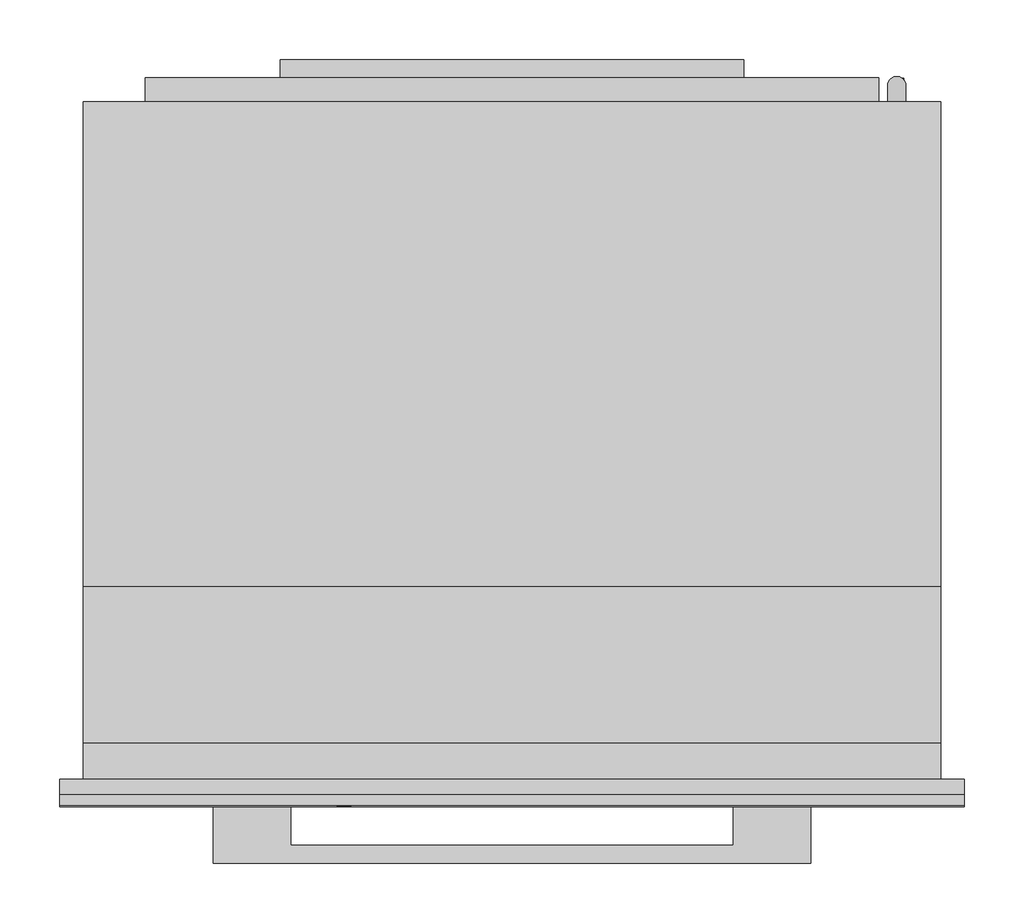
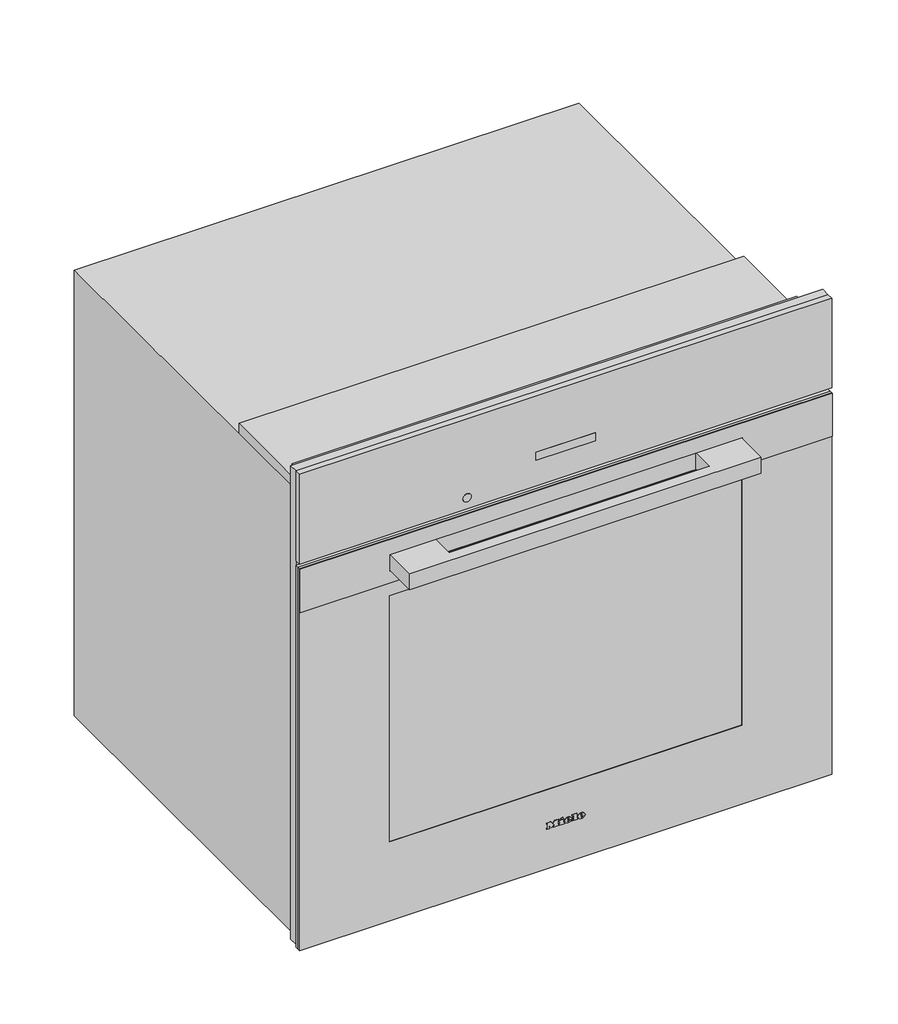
# Not in any storey: 1 proxy.
"""IFC4 building model written with IfcOpenShell, lengths in millimetres."""

from ifc_helpers import new_model, si_unit, origin, place, context, project, spatial, transform, mapped, element, save
from components import specialty_equipment_05982ed7

model = new_model("IFC4")

# Units and contexts
model_context = context("Model", 3, world=origin())
ifc_project = project(units=[si_unit("LENGTHUNIT", "METRE", prefix="MILLI")], contexts=[model_context])

# Site, building
site = spatial("IfcSite", under=ifc_project)
building = spatial("IfcBuilding", under=site)

# Proxy
placement = place(None, origin())
specialty_equipment_shape = specialty_equipment_05982ed7(model_context)
element("IfcBuildingElementProxy", 1, Name="11805500_USA_H7280BP_EDST-CLST : 22728045_USA_11805500_H7280BP_EDST-CLST", ObjectType="11805500_USA_H7280BP_EDST-CLST : 22728045_USA_11805500_H7280BP_EDST-CLST", at=placement, inside=building, context=model_context, shape_type="MappedRepresentation", body=[
    mapped(specialty_equipment_shape, transform((0.0, 0.0, 0.0), x_axis=(1.0, 0.0, 0.0), y_axis=(0.0, 1.0, 0.0), z_axis=(0.0, 0.0, 1.0))),
])

save(model, "model.ifc")
